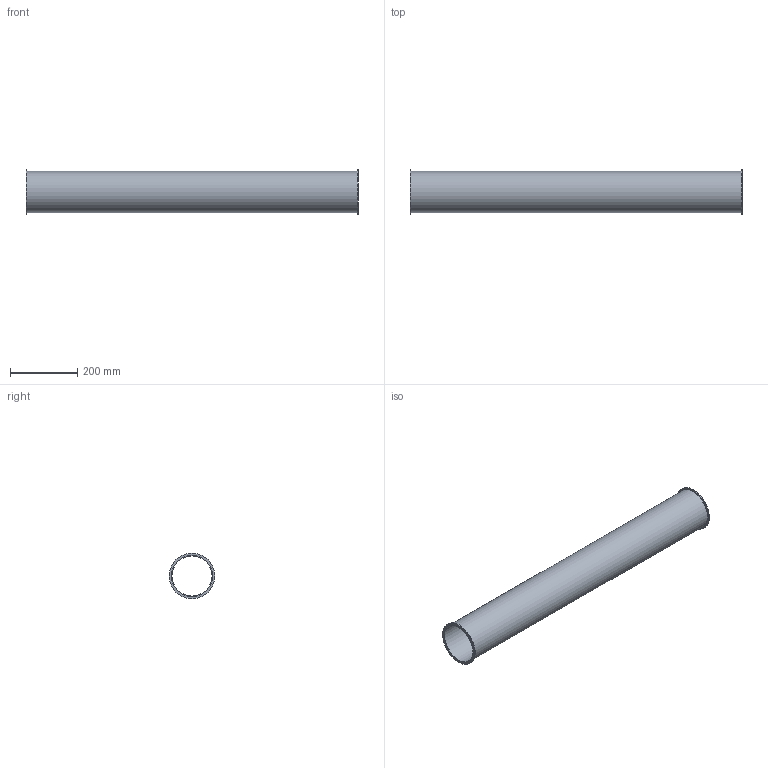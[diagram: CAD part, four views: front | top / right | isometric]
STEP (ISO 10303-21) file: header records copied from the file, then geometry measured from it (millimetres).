
FILE_DESCRIPTION((''),'2;1');
FILE_NAME('U:\Wolfgang\Marcel-3D\fertig\Kapitel 1\1221002.stp','2010-05-31T11:01:41',('TK2'),(''),'Autodesk Inventor 2010','Autodesk Inventor 2010','');
FILE_SCHEMA(('AUTOMOTIVE_DESIGN { 1 0 10303 214 1 1 1 1 }'));
Length unit declared in the file: millimetre
Products named in the file (1): 1221002
Bounding box: 986 x 135 x 135 mm (x, y, z)
Volume: 759348.1 mm3; surface area: 761019.4 mm2
Topology: 1 solids, 1 shells, 8 faces, 12 edges, 8 vertices
Faces by surface type: cylinder 4, plane 4
Full cylindrical faces by diameter (mm): 119 x1, 123 x1, 135 x2
Entity records: 194 total; most frequent: DIRECTION 34, CARTESIAN_POINT 25, AXIS2_PLACEMENT_3D 17, ORIENTED_EDGE 16, EDGE_LOOP 16, VERTEX_POINT 8, CIRCLE 8, EDGE_CURVE 8
